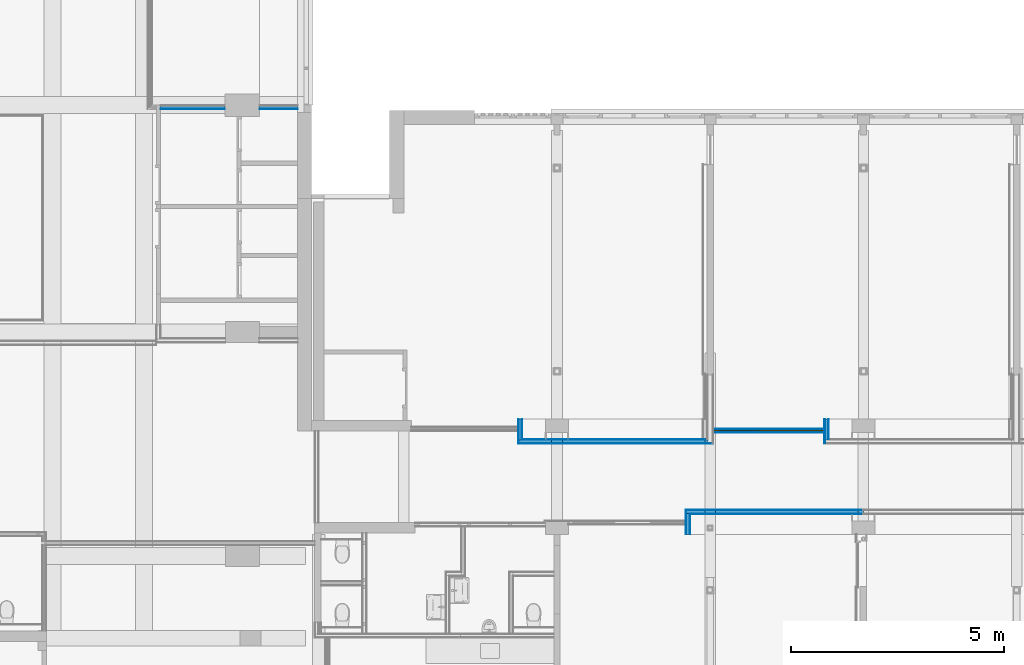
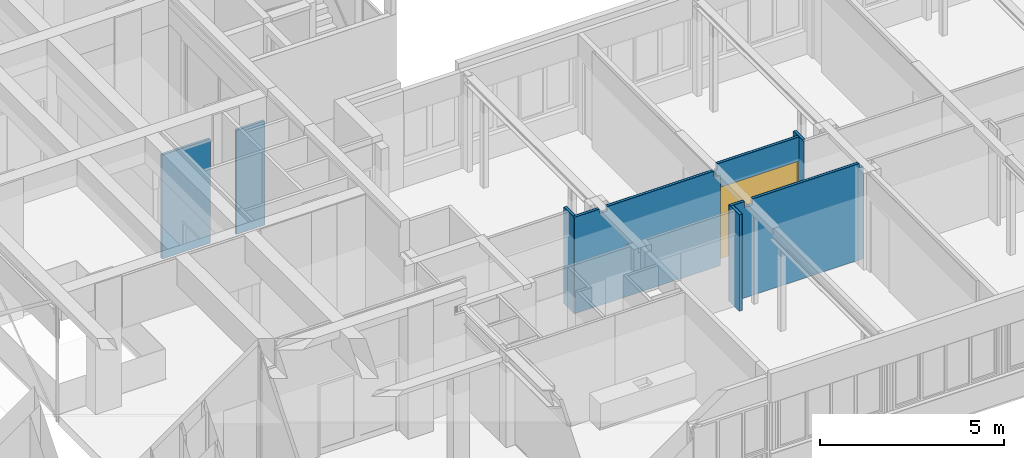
# One storey, part 84 of 117: 20 building element parts, 1 door, 1 opening, 7 elements without a shape of their own.
"""IFC2X3 building model written with IfcOpenShell, lengths in millimetres."""

from ifc_helpers import new_model, entity, si_unit, converted_unit, derived_unit, money_unit, direction, frame, origin_with_axes, place, context, subcontext, project, spatial, open_shell, faceted_brep, surface_model, material, type_object, element, fill, aggregate, save


model = new_model("IFC2X3")

# Units and contexts
model_context = context("Model", 3, precision=0.01, world=origin_with_axes(), true_north=direction((0.0, 1.0)))
body_context = subcontext(model_context, "Body", "Model", "MODEL_VIEW")
ifc_project = project(units=[si_unit("LENGTHUNIT", "METRE", prefix="MILLI"), si_unit("AREAUNIT", "SQUARE_METRE"), si_unit("VOLUMEUNIT", "CUBIC_METRE"), converted_unit("PLANEANGLEUNIT", "DEGREE", entity("IfcPlaneAngleMeasure", 0.0174532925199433), si_unit("PLANEANGLEUNIT", "RADIAN"), dimensions=[0, 0, 0, 0, 0, 0, 0]), money_unit("EUR"), converted_unit("TIMEUNIT", "Year", entity("IfcTimeMeasure", 31557600.0), si_unit("TIMEUNIT", "SECOND"), dimensions=[0, 0, 1, 0, 0, 0, 0]), si_unit("MASSUNIT", "GRAM", prefix="KILO"), si_unit("THERMODYNAMICTEMPERATUREUNIT", "DEGREE_CELSIUS"), si_unit("LUMINOUSINTENSITYUNIT", "LUMEN"), si_unit("ENERGYUNIT", "JOULE", prefix="MEGA"), derived_unit("THERMALCONDUCTANCEUNIT", [(si_unit("POWERUNIT", "WATT"), 1), (si_unit("LENGTHUNIT", "METRE"), -1), (si_unit("THERMODYNAMICTEMPERATUREUNIT", "KELVIN"), -1)]), derived_unit("SPECIFICHEATCAPACITYUNIT", [(si_unit("ENERGYUNIT", "JOULE"), 1), (si_unit("MASSUNIT", "GRAM", prefix="KILO"), -1), (si_unit("THERMODYNAMICTEMPERATUREUNIT", "KELVIN"), -1)]), derived_unit("MASSDENSITYUNIT", [(si_unit("MASSUNIT", "GRAM", prefix="KILO"), 1), (si_unit("VOLUMEUNIT", "CUBIC_METRE"), -1)])], contexts=[model_context])

# Site, building, storey
site_placement = place(None, origin_with_axes())
site = spatial("IfcSite", under=ifc_project, at=site_placement, Name="Site", CompositionType="ELEMENT")
building_placement = place(site_placement, origin_with_axes())
building = spatial("IfcBuilding", under=site, at=building_placement, Name="Naam gebouw", CompositionType="ELEMENT")
storey_placement = place(building_placement, frame((0.0, 0.0, 4150.0), z_axis=(0.0, 0.0, 1.0), x_axis=(1.0, 0.0, 0.0)))
storey = spatial("IfcBuildingStorey", under=building, at=storey_placement, Name="1e verdieping N", CompositionType="ELEMENT", Elevation=4150.0)

# Door
door_style = type_object("IfcDoorStyle", Name="D1 zl2 27", ConstructionType="NOTDEFINED", OperationType="USERDEFINED", ParameterTakesPrecedence=False, Sizeable=False)
wall_4_placement = place(storey_placement, frame((39675.00000000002, 20305.91242510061, 0.0), z_axis=(0.0, 0.0, 1.0), x_axis=(1.0, 0.0, 0.0)))
opening_placement = place(wall_4_placement, frame((1304.999999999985, 0.0, 0.0), z_axis=(0.0, 0.0, 1.0), x_axis=(1.0, 0.0, 0.0)))
door_placement = place(opening_placement, frame((-1304.999999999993, 0.0, 0.0), z_axis=(0.0, 0.0, 1.0), x_axis=(1.0, 0.0, 0.0)))
door = element("IfcDoor", 1, at=door_placement, inside=storey, type_object=door_style, Name="_Merk-x", ObjectType="DOOR", OverallHeight=2400.0, OverallWidth=2610.0, context=body_context, shape_type="SurfaceModel", body=[
    faceted_brep([(2609.999999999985, 9.99999999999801, 0.0), (2609.999999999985, -10.00000000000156, 0.0), (2579.999999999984, -10.00000000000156, 0.0), (2579.999999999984, 9.99999999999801, 0.0), (2609.999999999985, 9.99999999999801, 2370.0), (2609.999999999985, -10.00000000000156, 2370.0), (2579.999999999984, -10.00000000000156, 2370.0), (2579.999999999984, -10.00000000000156, 30.00000000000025), (2579.999999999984, 9.99999999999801, 30.00000000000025), (2579.999999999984, 9.99999999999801, 2370.0)], [[[0, 1, 2, 3]], [[4, 5, 1, 0]], [[1, 5, 6, 7, 2]], [[3, 2, 7, 8]], [[0, 3, 8, 9, 4]], [[9, 6, 5, 4]], [[8, 7, 6, 9]]]),
    faceted_brep([(1060.000000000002, -9.000000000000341, 0.0), (1060.000000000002, -10.00000000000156, 0.0), (1060.000000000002, -10.00000000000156, 2370.0), (1060.000000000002, -9.000000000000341, 2370.0), (1076.999999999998, -9.000000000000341, 0.0), (1076.999999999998, 9.99999999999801, 0.0), (1090.000000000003, 9.99999999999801, 0.0), (1090.000000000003, -10.00000000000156, 0.0), (1090.000000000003, -10.00000000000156, 30.00000000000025), (1090.000000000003, -10.00000000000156, 2370.0), (1076.999999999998, -9.000000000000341, 2370.0), (1090.000000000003, 9.99999999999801, 2370.0), (1076.999999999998, 9.99999999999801, 2370.0), (1090.000000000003, 9.99999999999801, 30.00000000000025)], [[[0, 1, 2, 3]], [[4, 5, 6, 7, 1, 0]], [[7, 8, 9, 2, 1]], [[10, 3, 2, 9, 11, 12]], [[10, 4, 0, 3]], [[12, 5, 4, 10]], [[12, 11, 13, 6, 5]], [[6, 13, 8, 7]], [[13, 11, 9, 8]]]),
    faceted_brep([(2579.999999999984, 9.99999999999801, 30.00000000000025), (2579.999999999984, -10.00000000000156, 30.00000000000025), (2579.999999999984, -10.00000000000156, 0.0), (2579.999999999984, 9.99999999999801, 0.0), (1090.000000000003, 9.99999999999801, 30.00000000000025), (1090.000000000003, -10.00000000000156, 30.00000000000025), (1090.000000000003, -10.00000000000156, 0.0), (1090.000000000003, 9.99999999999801, 0.0)], [[[0, 1, 2, 3]], [[4, 5, 1, 0]], [[1, 5, 6, 2]], [[3, 2, 6, 7]], [[0, 3, 7, 4]], [[7, 6, 5, 4]]]),
    faceted_brep([(0.0, 9.99999999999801, 0.0), (0.0, -10.00000000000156, 0.0), (0.0, -10.00000000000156, 2370.0), (0.0, 9.99999999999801, 2370.0), (30.00000000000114, 9.99999999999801, 0.0), (30.00000000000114, -10.00000000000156, 0.0), (30.00000000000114, -10.00000000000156, 30.00000000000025), (30.00000000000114, -10.00000000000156, 2370.0), (30.00000000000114, 9.99999999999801, 2370.0), (30.00000000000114, 9.99999999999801, 30.00000000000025)], [[[0, 1, 2, 3]], [[4, 5, 1, 0]], [[1, 5, 6, 7, 2]], [[3, 2, 7, 8]], [[0, 3, 8, 9, 4]], [[9, 6, 5, 4]], [[8, 7, 6, 9]]]),
    faceted_brep([(143.0000000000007, -9.000000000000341, 2370.0), (143.0000000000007, 9.99999999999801, 2370.0), (130.0000000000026, 9.99999999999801, 2370.0), (130.0000000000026, -10.00000000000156, 2370.0), (160.0000000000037, -10.00000000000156, 2370.0), (160.0000000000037, -9.000000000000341, 2370.0), (143.0000000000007, -9.000000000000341, 0.0), (143.0000000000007, 9.99999999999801, 0.0), (130.0000000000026, 9.99999999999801, 0.0), (130.0000000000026, 9.99999999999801, 30.00000000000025), (130.0000000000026, -10.00000000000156, 30.00000000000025), (160.0000000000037, -10.00000000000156, 0.0), (130.0000000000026, -10.00000000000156, 0.0), (160.0000000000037, -9.000000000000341, 0.0)], [[[0, 1, 2, 3, 4, 5]], [[0, 6, 7, 1]], [[7, 8, 9, 2, 1]], [[2, 9, 10, 3]], [[11, 4, 3, 10, 12]], [[5, 4, 11, 13]], [[5, 13, 6, 0]], [[6, 13, 11, 12, 8, 7]], [[9, 8, 12, 10]]]),
    faceted_brep([(130.0000000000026, 9.99999999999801, 30.00000000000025), (130.0000000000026, -10.00000000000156, 30.00000000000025), (130.0000000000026, -10.00000000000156, 0.0), (130.0000000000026, 9.99999999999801, 0.0), (30.00000000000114, 9.99999999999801, 30.00000000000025), (30.00000000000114, -10.00000000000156, 30.00000000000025), (30.00000000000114, -10.00000000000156, 0.0), (30.00000000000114, 9.99999999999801, 0.0)], [[[0, 1, 2, 3]], [[4, 5, 1, 0]], [[1, 5, 6, 2]], [[3, 2, 6, 7]], [[0, 3, 7, 4]], [[7, 6, 5, 4]]]),
    faceted_brep([(1076.999999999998, 9.99999999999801, 2387.0), (143.0000000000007, 9.99999999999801, 2387.0), (143.0000000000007, 9.99999999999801, 2370.0), (130.0000000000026, 9.99999999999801, 2370.0), (30.00000000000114, 9.99999999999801, 2370.0), (0.0, 9.99999999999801, 2370.0), (0.0, 9.99999999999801, 2400.0), (2609.999999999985, 9.99999999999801, 2400.0), (2609.999999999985, 9.99999999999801, 2370.0), (2579.999999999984, 9.99999999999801, 2370.0), (1090.000000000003, 9.99999999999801, 2370.0), (1076.999999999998, 9.99999999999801, 2370.0), (1076.999999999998, -9.000000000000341, 2387.0), (143.0000000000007, -9.000000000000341, 2387.0), (143.0000000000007, -9.000000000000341, 2370.0), (160.0000000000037, -9.000000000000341, 2370.0), (160.0000000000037, -10.00000000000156, 2370.0), (130.0000000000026, -10.00000000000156, 2370.0), (30.00000000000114, -10.00000000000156, 2370.0), (0.0, -10.00000000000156, 2370.0), (0.0, -10.00000000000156, 2400.0), (2609.999999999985, -10.00000000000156, 2400.0), (2609.999999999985, -10.00000000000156, 2370.0), (2579.999999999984, -10.00000000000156, 2370.0), (1090.000000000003, -10.00000000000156, 2370.0), (1076.999999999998, -9.000000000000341, 2370.0), (1060.000000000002, -10.00000000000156, 2370.0)], [[[0, 1, 2, 3, 4, 5, 6, 7, 8, 9, 10, 11]], [[0, 12, 13, 1]], [[1, 13, 14, 2]], [[14, 15, 16, 17, 18, 4, 3, 2]], [[5, 4, 18, 19]], [[6, 5, 19, 20]], [[7, 6, 20, 21]], [[8, 7, 21, 22]], [[9, 8, 22, 23]], [[10, 9, 23, 24]], [[25, 11, 10, 24, 26, 16, 15]], [[11, 25, 12, 0]], [[14, 13, 12, 25, 15]], [[18, 17, 16, 26, 24, 23, 22, 21, 20, 19]]]),
    faceted_brep([(143.0000000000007, 0.9999999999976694, 0.0), (1076.999999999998, 0.9999999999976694, 0.0), (1076.999999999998, -9.000000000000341, 0.0), (143.0000000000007, -9.000000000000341, 0.0), (143.0000000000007, 0.9999999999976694, 2387.0), (1076.999999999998, 0.9999999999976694, 2387.0), (1076.999999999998, -9.000000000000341, 2387.0), (143.0000000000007, -9.000000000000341, 2387.0)], [[[0, 1, 2, 3]], [[0, 4, 5, 1]], [[1, 5, 6, 2]], [[3, 2, 6, 7]], [[4, 0, 3, 7]], [[5, 4, 7, 6]]]),
    surface_model("IfcShellBasedSurfaceModel", [(2579.999999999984, 8.999999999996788, 30.00000000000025), (1090.000000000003, 8.999999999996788, 30.00000000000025), (1090.000000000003, 8.999999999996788, 2370.0), (2579.999999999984, 8.999999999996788, 2370.0)], [open_shell([[[0, 1, 2, 3]]])]),
    surface_model("IfcShellBasedSurfaceModel", [(2579.999999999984, 0.9999999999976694, 30.00000000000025), (2579.999999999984, 0.9999999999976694, 2370.0), (1090.000000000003, 0.9999999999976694, 2370.0), (1090.000000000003, 0.9999999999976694, 30.00000000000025)], [open_shell([[[0, 1, 2, 3]]])]),
    surface_model("IfcShellBasedSurfaceModel", [(130.0000000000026, 8.999999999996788, 30.00000000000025), (30.00000000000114, 8.999999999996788, 30.00000000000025), (30.00000000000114, 8.999999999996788, 2370.0), (130.0000000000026, 8.999999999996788, 2370.0)], [open_shell([[[0, 1, 2, 3]]])]),
    surface_model("IfcShellBasedSurfaceModel", [(130.0000000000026, 0.9999999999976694, 30.00000000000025), (130.0000000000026, 0.9999999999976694, 2370.0), (30.00000000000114, 0.9999999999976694, 2370.0), (30.00000000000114, 0.9999999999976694, 30.00000000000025)], [open_shell([[[0, 1, 2, 3]]])]),
])

# Wall, building element parts
wall_type = type_object("IfcWallType", Name="Metalstud iso 100 100", PredefinedType="NOTDEFINED")
wall_1_placement = place(storey_placement, frame((39600.00000000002, 20105.91242510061, 0.0), z_axis=(0.0, 0.0, 1.0), x_axis=(-1.0, 0.0, 0.0)))
wall_1 = element("IfcWall", 2, at=wall_1_placement, inside=storey, type_object=wall_type, Name="_Wand-x")
ifc_material_1 = material(Name="Isolatie - Steenwol LSW")
building_element_part_1_placement = place(wall_1_placement, origin_with_axes())
building_element_part_1 = element("IfcBuildingElementPart", 3, at=building_element_part_1_placement, material=ifc_material_1, Name="Isolatie - Steenwol LSW", context=body_context, shape_type="Brep", body=[
    faceted_brep([(125.0000000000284, 12.49999999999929, 3200.0), (125.0000000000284, 12.49999999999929, 3000.0), (62.5, 12.49999999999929, 3000.0), (62.5, 12.49999999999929, 0.0), (4502.500000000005, 12.49999999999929, 0.0), (4502.500000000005, 12.49999999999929, 3200.0), (3725.000000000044, 12.49999999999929, 3200.0), (3725.000000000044, 12.49999999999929, 3049.999999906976), (3475.000000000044, 12.49999999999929, 3049.999999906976), (3475.000000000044, 12.49999999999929, 3200.0), (125.0000000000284, 87.49999999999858, 3200.0), (125.0000000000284, 87.49999999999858, 3000.0), (62.5, 87.49999999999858, 3000.0), (62.5, 87.49999999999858, 0.0), (4502.500000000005, 87.49999999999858, 0.0), (4502.500000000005, 87.49999999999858, 3200.0), (3725.000000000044, 87.49999999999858, 3200.0), (3725.000000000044, 87.49999999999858, 3049.999999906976), (3475.000000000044, 87.49999999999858, 3049.999999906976), (3475.000000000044, 87.49999999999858, 3200.0)], [[[0, 1, 2, 3, 4, 5, 6, 7, 8, 9]], [[1, 0, 10, 11]], [[12, 2, 1, 11]], [[2, 12, 13, 3]], [[13, 14, 4, 3]], [[14, 15, 5, 4]], [[16, 6, 5, 15]], [[7, 6, 16, 17]], [[8, 7, 17, 18]], [[19, 9, 8, 18]], [[10, 0, 9, 19]], [[11, 10, 19, 18, 17, 16, 15, 14, 13, 12]]]),
])
ifc_material_2 = material(Name="Gipsplaat")
building_element_part_2_placement = place(wall_1_placement, origin_with_axes())
building_element_part_2 = element("IfcBuildingElementPart", 4, at=building_element_part_2_placement, material=ifc_material_2, Name="Gipsplaat", context=body_context, shape_type="Brep", body=[
    faceted_brep([(125.0000000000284, 87.49999999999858, 3200.0), (125.0000000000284, 87.49999999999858, 3000.0), (-75.00000000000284, 87.49999999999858, 3000.0), (-75.00000000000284, 87.49999999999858, 0.0), (4515.000000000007, 87.49999999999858, 0.0), (4515.000000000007, 87.49999999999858, 3200.0), (3725.000000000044, 87.49999999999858, 3200.0), (3725.000000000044, 87.49999999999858, 3049.999999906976), (3475.000000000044, 87.49999999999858, 3049.999999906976), (3475.000000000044, 87.49999999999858, 3200.0), (125.0000000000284, 100.0000000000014, 3200.0), (125.0000000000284, 100.0000000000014, 3000.0), (-75.00000000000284, 100.0000000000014, 3000.0), (-75.00000000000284, 100.0000000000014, 0.0), (4515.000000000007, 100.0000000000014, 0.0), (4515.000000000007, 100.0000000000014, 3200.0), (3725.000000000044, 100.0000000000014, 3200.0), (3725.000000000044, 100.0000000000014, 3049.999999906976), (3475.000000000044, 100.0000000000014, 3049.999999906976), (3475.000000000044, 100.0000000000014, 3200.0)], [[[0, 1, 2, 3, 4, 5, 6, 7, 8, 9]], [[1, 0, 10, 11]], [[12, 2, 1, 11]], [[2, 12, 13, 3]], [[13, 14, 4, 3]], [[14, 15, 5, 4]], [[16, 6, 5, 15]], [[7, 6, 16, 17]], [[8, 7, 17, 18]], [[19, 9, 8, 18]], [[10, 0, 9, 19]], [[11, 10, 19, 18, 17, 16, 15, 14, 13, 12]]]),
])
building_element_part_3_placement = place(wall_1_placement, origin_with_axes())
building_element_part_3 = element("IfcBuildingElementPart", 5, at=building_element_part_3_placement, material=ifc_material_2, Name="Gipsplaat", context=body_context, shape_type="Brep", body=[
    faceted_brep([(125.0000000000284, 0.0, 3200.0), (125.0000000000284, 0.0, 3000.0), (62.5, 0.0, 3000.0), (62.5, 0.0, 0.0), (4427.500000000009, 0.0, 0.0), (4427.500000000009, 0.0, 3200.0), (3725.000000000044, 0.0, 3200.0), (3725.000000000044, 0.0, 3049.999999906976), (3475.000000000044, 0.0, 3049.999999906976), (3475.000000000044, 0.0, 3200.0), (125.0000000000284, 12.49999999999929, 3200.0), (125.0000000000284, 12.49999999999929, 3000.0), (62.5, 12.49999999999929, 3000.0), (62.5, 12.49999999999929, 0.0), (4427.500000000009, 12.49999999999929, 0.0), (4427.500000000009, 12.49999999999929, 3200.0), (3725.000000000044, 12.49999999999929, 3200.0), (3725.000000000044, 12.49999999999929, 3049.999999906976), (3475.000000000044, 12.49999999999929, 3049.999999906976), (3475.000000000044, 12.49999999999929, 3200.0)], [[[0, 1, 2, 3, 4, 5, 6, 7, 8, 9]], [[1, 0, 10, 11]], [[12, 2, 1, 11]], [[2, 12, 13, 3]], [[13, 14, 4, 3]], [[14, 15, 5, 4]], [[16, 6, 5, 15]], [[7, 6, 16, 17]], [[8, 7, 17, 18]], [[19, 9, 8, 18]], [[10, 0, 9, 19]], [[11, 10, 19, 18, 17, 16, 15, 14, 13, 12]]]),
])
aggregate(wall_1, [building_element_part_1, building_element_part_2, building_element_part_3])

wall_2_placement = place(storey_placement, frame((35185.00000000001, 20580.9124251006, 0.0), z_axis=(0.0, 0.0, 1.0), x_axis=(0.0, -1.0, 0.0)))
wall_2 = element("IfcWall", 6, at=wall_2_placement, inside=storey, type_object=wall_type, Name="_Wand-x")
building_element_part_4_placement = place(wall_2_placement, origin_with_axes())
building_element_part_4 = element("IfcBuildingElementPart", 7, at=building_element_part_4_placement, material=ifc_material_2, Name="Gipsplaat", context=body_context, shape_type="Brep", body=[
    faceted_brep([(0.0, -12.50000000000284, 3200.0), (0.0, 0.0, 3200.0), (0.0, 0.0, 0.0), (0.0, -12.50000000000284, 0.0), (474.9999999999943, 0.0, 3200.0), (474.9999999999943, -12.50000000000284, 3200.0), (474.9999999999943, 0.0, 0.0), (474.9999999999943, -12.50000000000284, 0.0)], [[[0, 1, 2, 3]], [[4, 1, 0, 5]], [[1, 4, 6, 2]], [[6, 7, 3, 2]], [[5, 0, 3, 7]], [[4, 5, 7, 6]]]),
])
building_element_part_5_placement = place(wall_2_placement, origin_with_axes())
building_element_part_5 = element("IfcBuildingElementPart", 8, at=building_element_part_5_placement, material=ifc_material_1, Name="Isolatie - Steenwol LSW", context=body_context, shape_type="Brep", body=[
    faceted_brep([(0.0, -87.49999999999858, 3200.0), (0.0, -12.50000000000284, 3200.0), (0.0, -12.50000000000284, 0.0), (0.0, -87.49999999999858, 0.0), (487.4999999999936, -12.50000000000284, 3200.0), (487.4999999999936, -87.49999999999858, 3200.0), (487.4999999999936, -12.50000000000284, 0.0), (487.4999999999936, -87.49999999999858, 0.0)], [[[0, 1, 2, 3]], [[4, 1, 0, 5]], [[1, 4, 6, 2]], [[6, 7, 3, 2]], [[5, 0, 3, 7]], [[4, 5, 7, 6]]]),
])
building_element_part_6_placement = place(wall_2_placement, origin_with_axes())
building_element_part_6 = element("IfcBuildingElementPart", 9, at=building_element_part_6_placement, material=ifc_material_2, Name="Gipsplaat", context=body_context, shape_type="Brep", body=[
    faceted_brep([(0.0, -100.0000000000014, 3200.0), (0.0, -87.49999999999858, 3200.0), (0.0, -87.49999999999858, 0.0), (0.0, -100.0000000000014, 0.0), (562.499999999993, -87.49999999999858, 3200.0), (562.499999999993, -100.0000000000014, 3200.0), (562.499999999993, -87.49999999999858, 0.0), (562.499999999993, -100.0000000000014, 0.0)], [[[0, 1, 2, 3]], [[4, 1, 0, 5]], [[1, 4, 6, 2]], [[6, 7, 3, 2]], [[5, 0, 3, 7]], [[4, 5, 7, 6]]]),
])
aggregate(wall_2, [building_element_part_4, building_element_part_5, building_element_part_6])

wall_3_placement = place(storey_placement, frame((42385.0, 20580.9124251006, 0.0), z_axis=(0.0, 0.0, 1.0), x_axis=(0.0, -1.0, 0.0)))
wall_3 = element("IfcWall", 10, at=wall_3_placement, inside=storey, type_object=wall_type, Name="_Wand-x")
building_element_part_7_placement = place(wall_3_placement, origin_with_axes())
building_element_part_7 = element("IfcBuildingElementPart", 11, at=building_element_part_7_placement, material=ifc_material_2, Name="Gipsplaat", context=body_context, shape_type="Brep", body=[
    faceted_brep([(0.0, -12.50000000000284, 3200.0), (0.0, 0.0, 3200.0), (0.0, 0.0, 0.0), (0.0, -12.50000000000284, 0.0), (474.9999999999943, 0.0, 3200.0), (474.9999999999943, -12.50000000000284, 3200.0), (474.9999999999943, 0.0, 0.0), (474.9999999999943, -12.50000000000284, 0.0)], [[[0, 1, 2, 3]], [[4, 1, 0, 5]], [[1, 4, 6, 2]], [[6, 7, 3, 2]], [[5, 0, 3, 7]], [[4, 5, 7, 6]]]),
])
building_element_part_8_placement = place(wall_3_placement, origin_with_axes())
building_element_part_8 = element("IfcBuildingElementPart", 12, at=building_element_part_8_placement, material=ifc_material_1, Name="Isolatie - Steenwol LSW", context=body_context, shape_type="Brep", body=[
    faceted_brep([(0.0, -87.49999999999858, 3200.0), (0.0, -12.50000000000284, 3200.0), (0.0, -12.50000000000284, 0.0), (0.0, -87.49999999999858, 0.0), (487.4999999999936, -12.50000000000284, 3200.0), (487.4999999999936, -87.49999999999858, 3200.0), (487.4999999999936, -12.50000000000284, 0.0), (487.4999999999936, -87.49999999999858, 0.0)], [[[0, 1, 2, 3]], [[4, 1, 0, 5]], [[1, 4, 6, 2]], [[6, 7, 3, 2]], [[5, 0, 3, 7]], [[4, 5, 7, 6]]]),
])
building_element_part_9_placement = place(wall_3_placement, origin_with_axes())
building_element_part_9 = element("IfcBuildingElementPart", 13, at=building_element_part_9_placement, material=ifc_material_2, Name="Gipsplaat", context=body_context, shape_type="Brep", body=[
    faceted_brep([(0.0, -100.0000000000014, 3200.0), (0.0, -87.49999999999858, 3200.0), (0.0, -87.49999999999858, 0.0), (0.0, -100.0000000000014, 0.0), (562.499999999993, -87.49999999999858, 3200.0), (562.499999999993, -100.0000000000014, 3200.0), (562.499999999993, -87.49999999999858, 0.0), (562.499999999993, -100.0000000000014, 0.0)], [[[0, 1, 2, 3]], [[4, 1, 0, 5]], [[1, 4, 6, 2]], [[6, 7, 3, 2]], [[5, 0, 3, 7]], [[4, 5, 7, 6]]]),
])
aggregate(wall_3, [building_element_part_7, building_element_part_8, building_element_part_9])

# Wall, opening
wall_4 = element("IfcWall", 14, at=wall_4_placement, inside=storey, type_object=wall_type, Name="_Wand-x")
opening = element("IfcOpeningElement", 15, at=opening_placement, cuts=wall_4, Name="_Merk-x", context=body_context, shape_type="Brep", body=[
    faceted_brep([(-1304.999999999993, 9.99999999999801, 0.0), (-1304.999999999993, 9.99999999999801, 2400.0), (-1304.999999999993, 51.00000000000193, 2400.0), (-1304.999999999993, 51.00000000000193, 0.0), (-1304.999999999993, -51.00000000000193, 0.0), (-1304.999999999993, -51.00000000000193, 2400.0), (1304.999999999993, 9.99999999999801, 2400.0), (1304.999999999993, 51.00000000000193, 2400.0), (1304.999999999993, -51.00000000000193, 2400.0), (1304.999999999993, 51.00000000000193, 0.0), (1304.999999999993, 9.99999999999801, 0.0), (1304.999999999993, -51.00000000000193, 0.0)], [[[0, 1, 2, 3]], [[1, 0, 4, 5]], [[6, 7, 2, 1, 5, 8]], [[7, 9, 3, 2]], [[0, 3, 9, 10, 11, 4]], [[5, 4, 11, 8]], [[6, 10, 9, 7]], [[10, 6, 8, 11]]]),
])

fill(opening, door)

# Building element part
building_element_part_10_placement = place(wall_4_placement, origin_with_axes())
building_element_part_10 = element("IfcBuildingElementPart", 16, at=building_element_part_10_placement, material=ifc_material_2, Name="Gipsplaat", context=body_context, shape_type="Brep", body=[
    faceted_brep([(2609.999999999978, 37.50000000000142, 2400.0), (2609.999999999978, 50.00000000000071, 2400.0), (2609.999999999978, 50.00000000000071, 3200.0), (2609.999999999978, 37.50000000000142, 3200.0), (0.0, 50.00000000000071, 2400.0), (0.0, 37.50000000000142, 2400.0), (0.0, 50.00000000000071, 3000.0), (49.99999999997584, 50.00000000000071, 3000.0), (49.99999999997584, 50.00000000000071, 3200.0), (49.99999999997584, 37.50000000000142, 3200.0), (49.99999999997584, 37.50000000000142, 3000.0), (0.0, 37.50000000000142, 3000.0)], [[[0, 1, 2, 3]], [[4, 1, 0, 5]], [[1, 4, 6, 7, 8, 2]], [[9, 3, 2, 8]], [[5, 0, 3, 9, 10, 11]], [[4, 5, 11, 6]], [[6, 11, 10, 7]], [[8, 7, 10, 9]]]),
])

building_element_part_11_placement = place(wall_4_placement, origin_with_axes())
building_element_part_11 = element("IfcBuildingElementPart", 17, at=building_element_part_11_placement, material=ifc_material_1, Name="Isolatie - Steenwol LSW", context=body_context, shape_type="Brep", body=[
    faceted_brep([(2609.999999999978, -37.50000000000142, 2400.0), (2609.999999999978, 9.99999999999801, 2400.0), (2609.999999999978, 37.50000000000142, 2400.0), (2609.999999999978, 37.50000000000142, 3200.0), (2609.999999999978, -37.50000000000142, 3200.0), (0.0, -37.50000000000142, 2400.0), (0.0, 9.99999999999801, 2400.0), (0.0, 37.50000000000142, 2400.0), (49.99999999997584, 37.50000000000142, 3000.0), (49.99999999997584, 37.50000000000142, 3200.0), (0.0, 37.50000000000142, 3000.0), (49.99999999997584, -37.50000000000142, 3200.0), (49.99999999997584, -37.50000000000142, 3000.0), (0.0, -37.50000000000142, 3000.0)], [[[0, 1, 2, 3, 4]], [[1, 0, 5, 6, 7, 2]], [[8, 9, 3, 2, 7, 10]], [[4, 3, 9, 11]], [[5, 0, 4, 11, 12, 13]], [[6, 5, 13, 10, 7]], [[8, 12, 11, 9]], [[13, 12, 8, 10]]]),
])

building_element_part_12_placement = place(wall_4_placement, origin_with_axes())
building_element_part_12 = element("IfcBuildingElementPart", 18, at=building_element_part_12_placement, material=ifc_material_2, Name="Gipsplaat", context=body_context, shape_type="Brep", body=[
    faceted_brep([(2609.999999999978, -50.00000000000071, 2400.0), (2609.999999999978, -37.50000000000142, 2400.0), (2609.999999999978, -37.50000000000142, 3200.0), (2609.999999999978, -50.00000000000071, 3200.0), (0.0, -37.50000000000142, 2400.0), (0.0, -50.00000000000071, 2400.0), (0.0, -37.50000000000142, 3000.0), (49.99999999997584, -37.50000000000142, 3000.0), (49.99999999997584, -37.50000000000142, 3200.0), (49.99999999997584, -50.00000000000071, 3200.0), (49.99999999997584, -50.00000000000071, 3000.0), (0.0, -50.00000000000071, 3000.0)], [[[0, 1, 2, 3]], [[4, 1, 0, 5]], [[1, 4, 6, 7, 8, 2]], [[9, 3, 2, 8]], [[5, 0, 3, 9, 10, 11]], [[4, 5, 11, 6]], [[6, 11, 10, 7]], [[8, 7, 10, 9]]]),
])

aggregate(wall_4, [building_element_part_10, building_element_part_11, building_element_part_12])

# Wall, building element part
wall_5_placement = place(storey_placement, frame((39129.99999999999, 17870.91242510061, 0.0), z_axis=(0.0, 0.0, 1.0), x_axis=(0.0, 1.0, 0.0)))
wall_5 = element("IfcWall", 19, at=wall_5_placement, inside=storey, type_object=wall_type, Name="_Wand-x")
building_element_part_13_placement = place(wall_5_placement, origin_with_axes())
building_element_part_13 = element("IfcBuildingElementPart", 20, at=building_element_part_13_placement, material=ifc_material_2, Name="Gipsplaat", context=body_context, shape_type="Brep", body=[
    faceted_brep([(562.499999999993, 100.0000000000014, 3200.0), (562.499999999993, 87.49999999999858, 3200.0), (562.499999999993, 87.49999999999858, 0.0), (562.499999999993, 100.0000000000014, 0.0), (0.0, 87.49999999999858, 3200.0), (0.0, 100.0000000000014, 3200.0), (0.0, 87.49999999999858, 0.0), (0.0, 100.0000000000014, 0.0)], [[[0, 1, 2, 3]], [[4, 1, 0, 5]], [[1, 4, 6, 2]], [[3, 2, 6, 7]], [[5, 0, 3, 7]], [[4, 5, 7, 6]]]),
])

wall_6_placement = place(storey_placement, frame((43199.99999999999, 18345.9124251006, 0.0), z_axis=(0.0, 0.0, 1.0), x_axis=(-1.0, 0.0, 0.0)))
wall_6 = element("IfcWall", 21, at=wall_6_placement, inside=storey, type_object=wall_type, Name="_Wand-x")
building_element_part_14_placement = place(wall_6_placement, origin_with_axes())
building_element_part_14 = element("IfcBuildingElementPart", 22, at=building_element_part_14_placement, material=ifc_material_2, Name="Gipsplaat", context=body_context, shape_type="Brep", body=[
    faceted_brep([(125.0, -12.49999999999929, 3200.0), (125.0, -12.49999999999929, 3049.999999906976), (0.0, -12.49999999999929, 3049.999999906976), (0.0, -12.49999999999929, 0.0), (4082.50000000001, -12.49999999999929, 0.0), (4082.50000000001, -12.49999999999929, 3200.0), (3725.000000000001, -12.49999999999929, 3200.0), (3725.000000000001, -12.49999999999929, 3000.0), (3475.000000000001, -12.49999999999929, 3000.0), (3475.000000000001, -12.49999999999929, 3200.0), (125.0, 0.0, 3200.0), (125.0, 0.0, 3049.999999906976), (0.0, 0.0, 3049.999999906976), (0.0, 0.0, 0.0), (4082.50000000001, 0.0, 0.0), (4082.50000000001, 0.0, 3200.0), (3725.000000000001, 0.0, 3200.0), (3725.000000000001, 0.0, 3000.0), (3475.000000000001, 0.0, 3000.0), (3475.000000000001, 0.0, 3200.0)], [[[0, 1, 2, 3, 4, 5, 6, 7, 8, 9]], [[1, 0, 10, 11]], [[12, 2, 1, 11]], [[2, 12, 13, 3]], [[13, 14, 4, 3]], [[14, 15, 5, 4]], [[16, 6, 5, 15]], [[7, 6, 16, 17]], [[8, 7, 17, 18]], [[19, 9, 8, 18]], [[10, 0, 9, 19]], [[11, 10, 19, 18, 17, 16, 15, 14, 13, 12]]]),
])

# Building element part
building_element_part_15_placement = place(wall_5_placement, origin_with_axes())
building_element_part_15 = element("IfcBuildingElementPart", 23, at=building_element_part_15_placement, material=ifc_material_2, Name="Gipsplaat", context=body_context, shape_type="Brep", body=[
    faceted_brep([(474.9999999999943, 12.50000000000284, 3200.0), (474.9999999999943, 0.0, 3200.0), (474.9999999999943, 0.0, 0.0), (474.9999999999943, 12.50000000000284, 0.0), (0.0, 0.0, 3200.0), (0.0, 12.50000000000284, 3200.0), (0.0, 0.0, 0.0), (0.0, 12.50000000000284, 0.0)], [[[0, 1, 2, 3]], [[4, 1, 0, 5]], [[1, 4, 6, 2]], [[3, 2, 6, 7]], [[5, 0, 3, 7]], [[4, 5, 7, 6]]]),
])

building_element_part_16_placement = place(wall_5_placement, origin_with_axes())
building_element_part_16 = element("IfcBuildingElementPart", 24, at=building_element_part_16_placement, material=ifc_material_1, Name="Isolatie - Steenwol LSW", context=body_context, shape_type="Brep", body=[
    faceted_brep([(487.4999999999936, 87.49999999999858, 3200.0), (487.4999999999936, 12.50000000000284, 3200.0), (487.4999999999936, 12.50000000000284, 0.0), (487.4999999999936, 87.49999999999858, 0.0), (0.0, 12.50000000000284, 3200.0), (0.0, 87.49999999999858, 3200.0), (0.0, 12.50000000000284, 0.0), (0.0, 87.49999999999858, 0.0)], [[[0, 1, 2, 3]], [[4, 1, 0, 5]], [[1, 4, 6, 2]], [[3, 2, 6, 7]], [[5, 0, 3, 7]], [[4, 5, 7, 6]]]),
])

aggregate(wall_5, [building_element_part_13, building_element_part_15, building_element_part_16])

building_element_part_17_placement = place(wall_6_placement, origin_with_axes())
building_element_part_17 = element("IfcBuildingElementPart", 25, at=building_element_part_17_placement, material=ifc_material_2, Name="Gipsplaat", context=body_context, shape_type="Brep", body=[
    faceted_brep([(125.0, -100.0000000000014, 3200.0), (125.0, -100.0000000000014, 3049.999999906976), (0.0, -100.0000000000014, 3049.999999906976), (0.0, -100.0000000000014, 0.0), (4170.000000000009, -100.0000000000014, 0.0), (4170.000000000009, -100.0000000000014, 3200.0), (3725.000000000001, -100.0000000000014, 3200.0), (3725.000000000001, -100.0000000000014, 3000.0), (3475.000000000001, -100.0000000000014, 3000.0), (3475.000000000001, -100.0000000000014, 3200.0), (125.0, -87.49999999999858, 3200.0), (125.0, -87.49999999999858, 3049.999999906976), (0.0, -87.49999999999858, 3049.999999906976), (0.0, -87.49999999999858, 0.0), (4170.000000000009, -87.49999999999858, 0.0), (4170.000000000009, -87.49999999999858, 3200.0), (3725.000000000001, -87.49999999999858, 3200.0), (3725.000000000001, -87.49999999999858, 3000.0), (3475.000000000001, -87.49999999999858, 3000.0), (3475.000000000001, -87.49999999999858, 3200.0)], [[[0, 1, 2, 3, 4, 5, 6, 7, 8, 9]], [[1, 0, 10, 11]], [[12, 2, 1, 11]], [[2, 12, 13, 3]], [[13, 14, 4, 3]], [[14, 15, 5, 4]], [[16, 6, 5, 15]], [[7, 6, 16, 17]], [[8, 7, 17, 18]], [[19, 9, 8, 18]], [[10, 0, 9, 19]], [[11, 10, 19, 18, 17, 16, 15, 14, 13, 12]]]),
])

building_element_part_18_placement = place(wall_6_placement, origin_with_axes())
building_element_part_18 = element("IfcBuildingElementPart", 26, at=building_element_part_18_placement, material=ifc_material_1, Name="Isolatie - Steenwol LSW", context=body_context, shape_type="Brep", body=[
    faceted_brep([(125.0, -87.49999999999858, 3200.0), (125.0, -87.49999999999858, 3049.999999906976), (0.0, -87.49999999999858, 3049.999999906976), (0.0, -87.49999999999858, 0.0), (4157.500000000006, -87.49999999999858, 0.0), (4157.500000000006, -87.49999999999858, 3200.0), (3725.000000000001, -87.49999999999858, 3200.0), (3725.000000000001, -87.49999999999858, 3000.0), (3475.000000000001, -87.49999999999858, 3000.0), (3475.000000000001, -87.49999999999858, 3200.0), (125.0, -12.49999999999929, 3200.0), (125.0, -12.49999999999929, 3049.999999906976), (0.0, -12.49999999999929, 3049.999999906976), (0.0, -12.49999999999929, 0.0), (4157.500000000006, -12.49999999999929, 0.0), (4157.500000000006, -12.49999999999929, 3200.0), (3725.000000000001, -12.49999999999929, 3200.0), (3725.000000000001, -12.49999999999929, 3000.0), (3475.000000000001, -12.49999999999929, 3000.0), (3475.000000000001, -12.49999999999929, 3200.0)], [[[0, 1, 2, 3, 4, 5, 6, 7, 8, 9]], [[1, 0, 10, 11]], [[12, 2, 1, 11]], [[2, 12, 13, 3]], [[13, 14, 4, 3]], [[14, 15, 5, 4]], [[16, 6, 5, 15]], [[7, 6, 16, 17]], [[8, 7, 17, 18]], [[19, 9, 8, 18]], [[10, 0, 9, 19]], [[11, 10, 19, 18, 17, 16, 15, 14, 13, 12]]]),
])

aggregate(wall_6, [building_element_part_14, building_element_part_17, building_element_part_18])

# Wall, building element parts
wall_7_placement = place(storey_placement, frame((29906.0, 27955.91242510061, 0.0), z_axis=(0.0, 0.0, 1.0), x_axis=(-1.0, 0.0, 0.0)))
wall_7 = element("IfcWall", 27, at=wall_7_placement, inside=storey, type_object=wall_type, Name="_Wand-x")
building_element_part_19_placement = place(wall_7_placement, origin_with_axes())
building_element_part_19 = element("IfcBuildingElementPart", 28, at=building_element_part_19_placement, material=ifc_material_2, Name="Gipsplaat", context=body_context, shape_type="Brep", body=[
    faceted_brep([(1710.000000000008, 100.0000000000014, 3449.999999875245), (1710.000000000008, 87.49999999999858, 3449.999999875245), (3219.999999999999, 87.49999999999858, 3449.999999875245), (3219.999999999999, 100.0000000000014, 3449.999999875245), (1710.000000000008, 87.49999999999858, 0.0), (1710.000000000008, 100.0000000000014, 0.0), (3219.999999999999, 87.49999999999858, 0.0), (3219.999999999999, 100.0000000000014, 0.0)], [[[0, 1, 2, 3]], [[4, 1, 0, 5]], [[1, 4, 6, 2]], [[7, 3, 2, 6]], [[5, 0, 3, 7]], [[4, 5, 7, 6]]]),
    faceted_brep([(890.0000000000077, 87.49999999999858, 0.0), (890.0000000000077, 87.49999999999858, 3449.999999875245), (0.0, 87.49999999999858, 3449.999999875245), (0.0, 87.49999999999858, 0.0), (890.0000000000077, 100.0000000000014, 3449.999999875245), (890.0000000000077, 100.0000000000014, 0.0), (0.0, 100.0000000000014, 3449.999999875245), (0.0, 100.0000000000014, 0.0)], [[[0, 1, 2, 3]], [[4, 1, 0, 5]], [[1, 4, 6, 2]], [[3, 2, 6, 7]], [[5, 0, 3, 7]], [[4, 5, 7, 6]]]),
])
building_element_part_20_placement = place(wall_7_placement, origin_with_axes())
building_element_part_20 = element("IfcBuildingElementPart", 29, at=building_element_part_20_placement, material=ifc_material_1, Name="Isolatie - Steenwol LSW", context=body_context, shape_type="Brep", body=[
    faceted_brep([(1710.000000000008, 87.49999999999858, 3449.999999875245), (1710.000000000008, 12.49999999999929, 3449.999999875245), (3219.999999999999, 12.49999999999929, 3449.999999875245), (3219.999999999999, 87.49999999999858, 3449.999999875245), (1710.000000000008, 12.49999999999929, 0.0), (1710.000000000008, 87.49999999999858, 0.0), (3219.999999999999, 12.49999999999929, 0.0), (3219.999999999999, 87.49999999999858, 0.0)], [[[0, 1, 2, 3]], [[4, 1, 0, 5]], [[1, 4, 6, 2]], [[7, 3, 2, 6]], [[5, 0, 3, 7]], [[4, 5, 7, 6]]]),
    faceted_brep([(890.0000000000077, 12.49999999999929, 0.0), (890.0000000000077, 12.49999999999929, 3449.999999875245), (0.0, 12.49999999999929, 3449.999999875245), (0.0, 12.49999999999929, 0.0), (890.0000000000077, 87.49999999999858, 3449.999999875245), (890.0000000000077, 87.49999999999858, 0.0), (0.0, 87.49999999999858, 3449.999999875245), (0.0, 87.49999999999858, 0.0)], [[[0, 1, 2, 3]], [[4, 1, 0, 5]], [[1, 4, 6, 2]], [[3, 2, 6, 7]], [[5, 0, 3, 7]], [[4, 5, 7, 6]]]),
])
aggregate(wall_7, [building_element_part_19, building_element_part_20])

save(model, "model.ifc")
